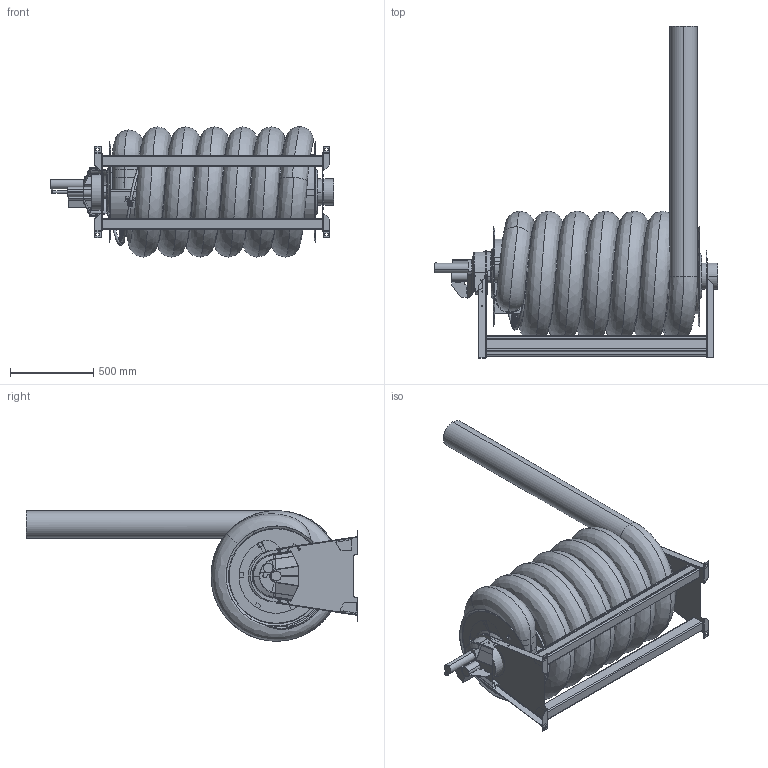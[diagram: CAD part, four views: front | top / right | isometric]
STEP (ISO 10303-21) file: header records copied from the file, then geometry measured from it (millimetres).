
FILE_DESCRIPTION((''),'2;1');
FILE_NAME('ASEM_125_150-15','2022-04-20T15:20:35',('Tomas Bellgran'),(''),'CREO PARAMETRIC BY PTC INC, 2018260','CREO PARAMETRIC BY PTC INC, 2018260','');
FILE_SCHEMA(('AUTOMOTIVE_DESIGN { 1 0 10303 214 1 1 1 1 }'));
Products named in the file (26): 110534; 110536; 110803; 111736; 111735; 110563; 112850; 110528; 110593; 110653; G_ASE_DUMMY; 124129; G_ASL-EVO_150CON_BRACKET; GUIDE_150; 110660; ASEM_DRUM_125_150; HOSE_125_150_15; 143740; 143700; 143550; 144299; 143702; 144230; 111192_NEW; 104504_L; ASEM_125_150-15
Assembly tree (29 placements, depth 4):
  ASEM_125_150-15
    110563
      110534
      110536
      110803  x2
      111736
      111735
    112850  x2
    ASEM_DRUM_125_150
      110528  x2
      110593
      110653
      G_ASL-EVO_150CON_BRACKET
        G_ASE_DUMMY
        124129
      GUIDE_150
      110660  x2
    HOSE_125_150_15
    104504_L
      143740
      143702
        143700
        143550
        144299
      144230
      111192_NEW
Bounding box: 1702 x 1991.07 x 783 mm (x, y, z)
Volume: 504578738.5 mm3; surface area: 16991811.6 mm2
Topology: 24 solids, 28 shells, 1023 faces, 2424 edges, 1467 vertices
Faces by surface type: plane 546, cylinder 318, bspline 87, torus 48, cone 24
Entity records: 53240 total; most frequent: CARTESIAN_POINT 18715, DIRECTION 4435, ORIENTED_EDGE 3960, EDGE_CURVE 1986, PRESENTATION_STYLE_ASSIGNMENT 1681, STYLED_ITEM 1680, AXIS2_PLACEMENT_3D 1561, CURVE_STYLE 1447
